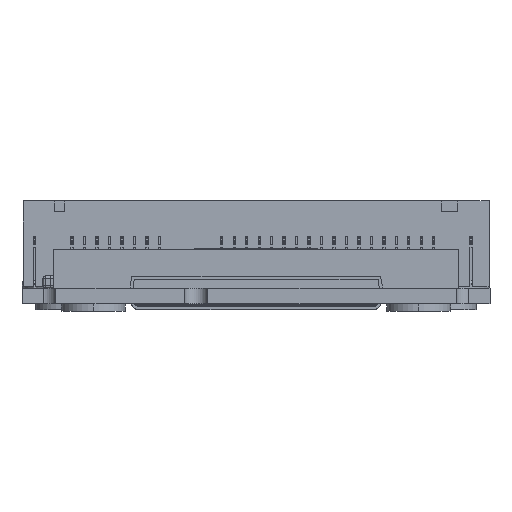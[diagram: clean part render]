
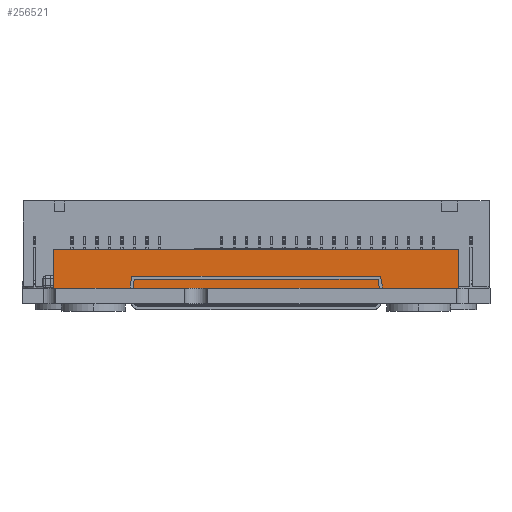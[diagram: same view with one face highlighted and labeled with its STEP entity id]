
A CAD part, front view. The second image highlights one B-rep face of the part: STEP entity #256521.
In plain terms, the highlighted planar face has unit normal (0, -1, 0).
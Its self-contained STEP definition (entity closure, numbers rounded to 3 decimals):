
#256521 = ADVANCED_FACE('',(#256522),#256556,.T.);
#256522 = FACE_BOUND('',#256523,.T.);
#256523 = EDGE_LOOP('',(#256524,#256534,#256542,#256550));
#256524 = ORIENTED_EDGE('',*,*,#256525,.F.);
#256525 = EDGE_CURVE('',#256526,#256528,#256530,.T.);
#256526 = VERTEX_POINT('',#256527);
#256527 = CARTESIAN_POINT('',(69.951,22.6,0.));
#256528 = VERTEX_POINT('',#256529);
#256529 = CARTESIAN_POINT('',(95.951,22.6,0.));
#256530 = LINE('',#256531,#256532);
#256531 = CARTESIAN_POINT('',(0.,22.6,0.));
#256532 = VECTOR('',#256533,1.);
#256533 = DIRECTION('',(1.,0.,0.));
#256534 = ORIENTED_EDGE('',*,*,#256535,.F.);
#256535 = EDGE_CURVE('',#256536,#256526,#256538,.T.);
#256536 = VERTEX_POINT('',#256537);
#256537 = CARTESIAN_POINT('',(69.951,22.6,-3.));
#256538 = LINE('',#256539,#256540);
#256539 = CARTESIAN_POINT('',(69.951,22.6,-3.));
#256540 = VECTOR('',#256541,1.);
#256541 = DIRECTION('',(0.,0.,1.));
#256542 = ORIENTED_EDGE('',*,*,#256543,.T.);
#256543 = EDGE_CURVE('',#256536,#256544,#256546,.T.);
#256544 = VERTEX_POINT('',#256545);
#256545 = CARTESIAN_POINT('',(95.951,22.6,-3.));
#256546 = LINE('',#256547,#256548);
#256547 = CARTESIAN_POINT('',(0.,22.6,-3.));
#256548 = VECTOR('',#256549,1.);
#256549 = DIRECTION('',(1.,0.,0.));
#256550 = ORIENTED_EDGE('',*,*,#256551,.T.);
#256551 = EDGE_CURVE('',#256544,#256528,#256552,.T.);
#256552 = LINE('',#256553,#256554);
#256553 = CARTESIAN_POINT('',(95.951,22.6,-3.));
#256554 = VECTOR('',#256555,1.);
#256555 = DIRECTION('',(0.,0.,1.));
#256556 = PLANE('',#256557);
#256557 = AXIS2_PLACEMENT_3D('',#256558,#256559,#256560);
#256558 = CARTESIAN_POINT('',(0.,22.6,-3.));
#256559 = DIRECTION('',(0.,-1.,0.));
#256560 = DIRECTION('',(0.,0.,-1.));
